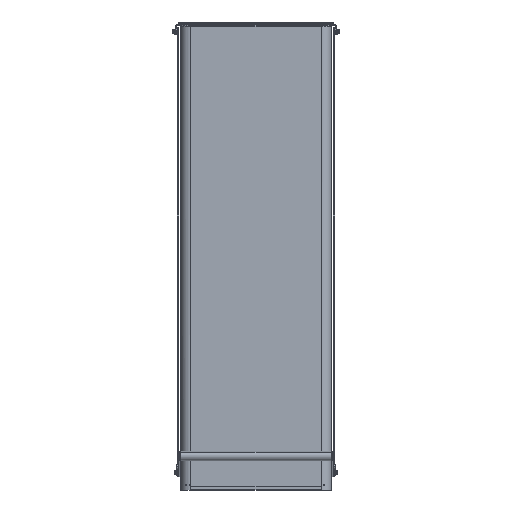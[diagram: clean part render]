
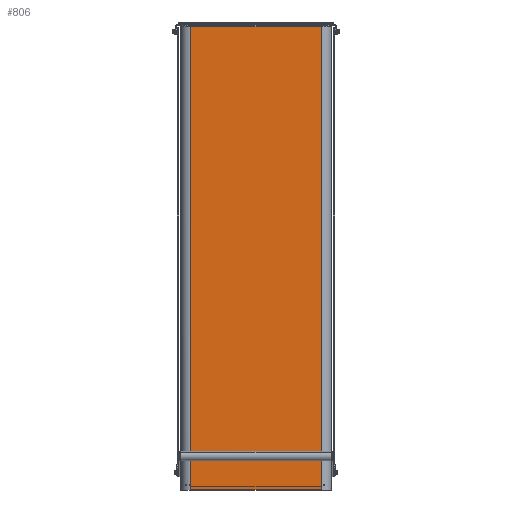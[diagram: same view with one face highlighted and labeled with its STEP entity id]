
A CAD part, front view. The second image highlights one B-rep face of the part: STEP entity #806.
In plain terms, the highlighted planar face has unit normal (0, -1, 0).
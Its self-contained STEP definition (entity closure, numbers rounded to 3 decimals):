
#806=ADVANCED_FACE('',(#1320),#7631,.T.);
#1320=FACE_OUTER_BOUND('',#1891,.T.);
#1891=EDGE_LOOP('',(#3779,#3780,#3781,#3782));
#3779=ORIENTED_EDGE('',*,*,#5261,.F.);
#3780=ORIENTED_EDGE('',*,*,#5231,.F.);
#3781=ORIENTED_EDGE('',*,*,#5259,.F.);
#3782=ORIENTED_EDGE('',*,*,#5226,.F.);
#5226=EDGE_CURVE('',#7249,#7254,#6069,.T.);
#5231=EDGE_CURVE('',#7255,#7246,#6074,.T.);
#5259=EDGE_CURVE('',#7254,#7255,#6097,.T.);
#5261=EDGE_CURVE('',#7246,#7249,#6098,.T.);
#6069=B_SPLINE_CURVE_WITH_KNOTS('',1,(#17355,#17356),.UNSPECIFIED.,.F.,
 .F.,(2,2),(0.,280.),.UNSPECIFIED.);
#6074=B_SPLINE_CURVE_WITH_KNOTS('',1,(#17365,#17366),.UNSPECIFIED.,.F.,
 .F.,(2,2),(0.,280.),.UNSPECIFIED.);
#6097=B_SPLINE_CURVE_WITH_KNOTS('',1,(#17426,#17427),.UNSPECIFIED.,.F.,
 .F.,(2,2),(0.,997.),.UNSPECIFIED.);
#6098=B_SPLINE_CURVE_WITH_KNOTS('',1,(#17431,#17432),.UNSPECIFIED.,.F.,
 .F.,(2,2),(-997.,0.),.UNSPECIFIED.);
#7246=VERTEX_POINT('',#17254);
#7249=VERTEX_POINT('',#17257);
#7254=VERTEX_POINT('',#17262);
#7255=VERTEX_POINT('',#17263);
#7631=PLANE('',#8681);
#8681=AXIS2_PLACEMENT_3D('',#17070,#9123,$);
#9123=DIRECTION('',(0.,-1.,0.));
#17070=CARTESIAN_POINT('',(-168.,-161.5,-99.7));
#17254=CARTESIAN_POINT('',(140.,-161.5,997.));
#17257=CARTESIAN_POINT('',(140.,-161.5,0.));
#17262=CARTESIAN_POINT('',(-140.,-161.5,0.));
#17263=CARTESIAN_POINT('',(-140.,-161.5,997.));
#17355=CARTESIAN_POINT('',(140.,-161.5,0.));
#17356=CARTESIAN_POINT('',(-140.,-161.5,0.));
#17365=CARTESIAN_POINT('',(-140.,-161.5,997.));
#17366=CARTESIAN_POINT('',(140.,-161.5,997.));
#17426=CARTESIAN_POINT('',(-140.,-161.5,0.));
#17427=CARTESIAN_POINT('',(-140.,-161.5,997.));
#17431=CARTESIAN_POINT('',(140.,-161.5,997.));
#17432=CARTESIAN_POINT('',(140.,-161.5,0.));
